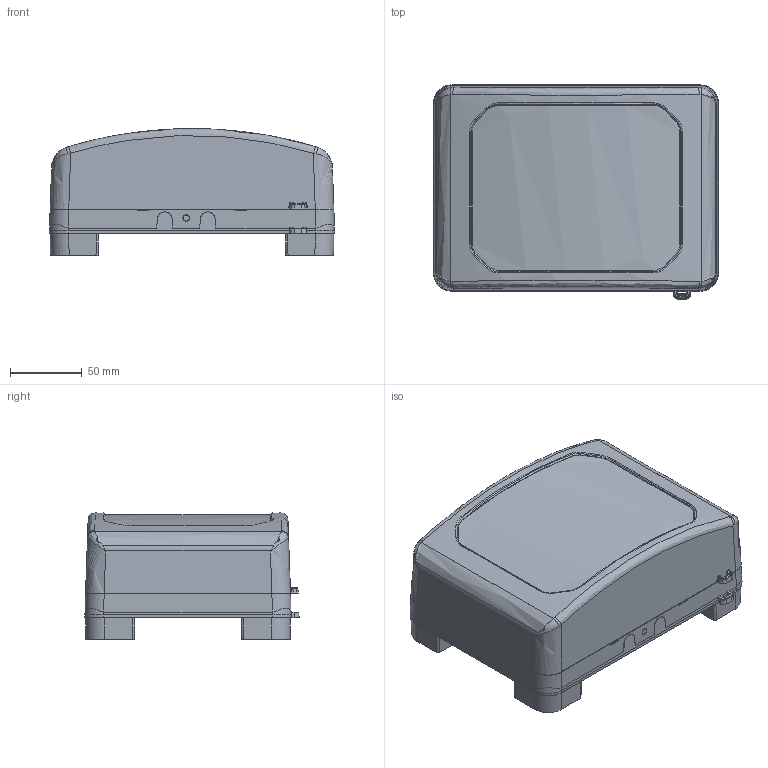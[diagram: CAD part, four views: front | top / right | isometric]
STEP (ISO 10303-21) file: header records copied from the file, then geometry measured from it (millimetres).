
FILE_DESCRIPTION (( 'STEP AP214' ), '1' );
FILE_NAME ('Áëîê.STEP', '2026-06-09T11:43:19', ( '' ), ( '' ), 'SwSTEP 2.0', 'SolidWorks 2023', '' );
FILE_SCHEMA (( 'AUTOMOTIVE_DESIGN' ));
Length unit declared in the file: millimetre
Products named in the file (1): Блок
Bounding box: 198.92 x 149.46 x 88.36 mm (x, y, z)
Volume: 1911031.1 mm3; surface area: 106537.6 mm2
Topology: 1 solids, 1 shells, 321 faces, 826 edges, 516 vertices
Faces by surface type: bspline 321
Entity records: 21329 total; most frequent: CARTESIAN_POINT 16439, ORIENTED_EDGE 1644, EDGE_CURVE 822, B_SPLINE_CURVE_WITH_KNOTS 715, VERTEX_POINT 516, EDGE_LOOP 338, FACE_OUTER_BOUND 321, ADVANCED_FACE 321
